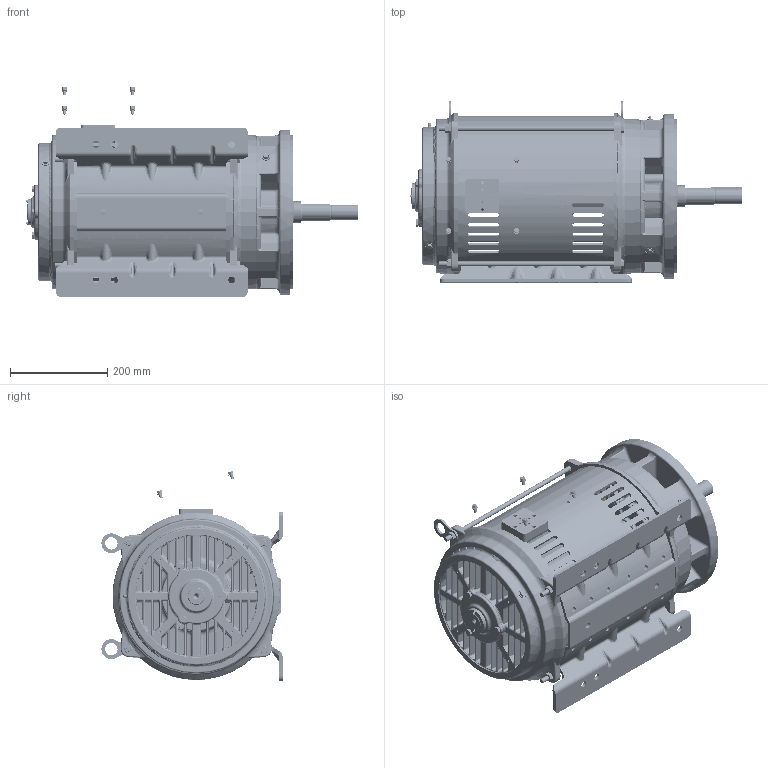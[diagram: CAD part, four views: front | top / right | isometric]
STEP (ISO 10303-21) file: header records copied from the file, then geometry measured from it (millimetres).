
FILE_DESCRIPTION (( 'STEP AP203' ), '1' );
FILE_NAME ('SS621126-100_RevA.STEP', '2022-02-02T07:01:24', ( '' ), ( '' ), 'SwSTEP 2.0', 'SolidWorks 2021', '' );
FILE_SCHEMA (( 'CONFIG_CONTROL_DESIGN' ));
Products named in the file (1): SS621126-100_RevA
Bounding box: 683.99 x 373.28 x 432.37 mm (x, y, z)
Volume: 10891688.7 mm3; surface area: 2228150.8 mm2
Topology: 47 solids, 47 shells, 4268 faces, 10894 edges, 6435 vertices
Faces by surface type: cylinder 1368, bspline 932, plane 823, torus 553, cone 518, sphere 74
Entity records: 202135 total; most frequent: CARTESIAN_POINT 100435, ORIENTED_EDGE 22952, DIRECTION 19569, EDGE_CURVE 11476, AXIS2_PLACEMENT_3D 7983, VERTEX_POINT 6937, EDGE_LOOP 4995, ADVANCED_FACE 4620
